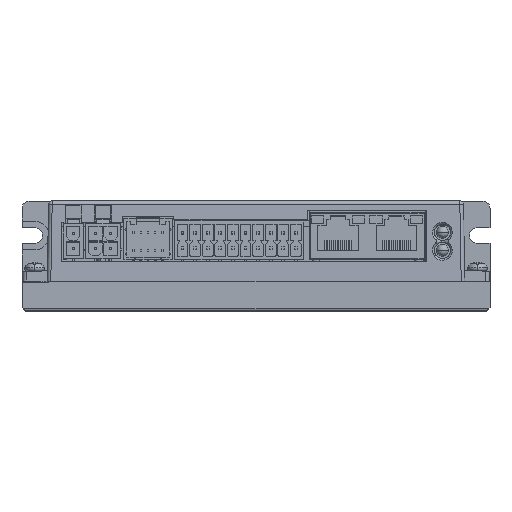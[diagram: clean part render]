
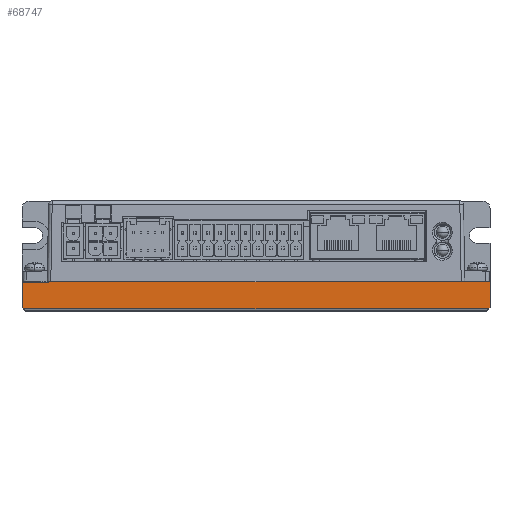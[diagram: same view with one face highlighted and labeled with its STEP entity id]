
A CAD part, top view. The second image highlights one B-rep face of the part: STEP entity #68747.
In plain terms, the highlighted planar face has unit normal (0, 0, 1).
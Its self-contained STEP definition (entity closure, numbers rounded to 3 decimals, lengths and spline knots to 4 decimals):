
#56781=DIRECTION('',(-1.,0.,0.));
#56782=VECTOR('',#56781,0.315);
#56783=CARTESIAN_POINT('',(2.5591,0.0984,
3.2283));
#56784=LINE('',#56783,#56782);
#57676=DIRECTION('',(-1.,0.,0.));
#57677=VECTOR('',#57676,4.4882);
#57678=CARTESIAN_POINT('',(2.2441,0.0984,
3.2283));
#57679=LINE('',#57678,#57677);
#57859=DIRECTION('',(-1.,0.,0.));
#57860=VECTOR('',#57859,0.0197);
#57861=CARTESIAN_POINT('',(-2.2441,0.0984,
3.2283));
#57862=LINE('',#57861,#57860);
#57867=DIRECTION('',(0.,-1.,0.));
#57868=VECTOR('',#57867,0.2756);
#57869=CARTESIAN_POINT('',(2.5591,0.0984,
3.2283));
#57870=LINE('',#57869,#57868);
#57871=DIRECTION('',(-0.707,-0.707,0.));
#57872=VECTOR('',#57871,0.0278);
#57873=CARTESIAN_POINT('',(2.5591,-0.1772,
3.2283));
#57874=LINE('',#57873,#57872);
#57875=DIRECTION('',(1.,0.,0.));
#57876=VECTOR('',#57875,5.0787);
#57877=CARTESIAN_POINT('',(-2.5394,-0.1969,
3.2283));
#57878=LINE('',#57877,#57876);
#57879=DIRECTION('',(-0.707,0.707,0.));
#57880=VECTOR('',#57879,0.0278);
#57881=CARTESIAN_POINT('',(-2.5394,-0.1969,
3.2283));
#57882=LINE('',#57881,#57880);
#57883=DIRECTION('',(0.,1.,0.));
#57884=VECTOR('',#57883,0.2736);
#57885=CARTESIAN_POINT('',(-2.5591,-0.1772,
3.2283));
#57886=LINE('',#57885,#57884);
#57887=DIRECTION('',(1.,0.,0.));
#57888=VECTOR('',#57887,0.2953);
#57889=CARTESIAN_POINT('',(-2.5591,0.0965,
3.2283));
#57890=LINE('',#57889,#57888);
#57891=DIRECTION('',(0.,-1.,0.));
#57892=VECTOR('',#57891,0.002);
#57893=CARTESIAN_POINT('',(-2.2638,0.0984,
3.2283));
#57894=LINE('',#57893,#57892);
#66688=CARTESIAN_POINT('',(2.5591,0.0984,
3.2283));
#66690=VERTEX_POINT('',#66688);
#66802=CARTESIAN_POINT('',(-2.5591,0.0965,
3.2283));
#66804=VERTEX_POINT('',#66802);
#66818=CARTESIAN_POINT('',(-2.2638,0.0965,
3.2283));
#66819=VERTEX_POINT('',#66818);
#66820=CARTESIAN_POINT('',(-2.2638,0.0984,
3.2283));
#66821=VERTEX_POINT('',#66820);
#67067=CARTESIAN_POINT('',(2.5591,-0.1772,
3.2283));
#67069=VERTEX_POINT('',#67067);
#67131=CARTESIAN_POINT('',(-2.5591,-0.1772,
3.2283));
#67133=VERTEX_POINT('',#67131);
#67134=CARTESIAN_POINT('',(-2.5394,-0.1969,
3.2283));
#67135=VERTEX_POINT('',#67134);
#67136=CARTESIAN_POINT('',(2.5394,-0.1969,
3.2283));
#67137=VERTEX_POINT('',#67136);
#67284=CARTESIAN_POINT('',(2.2441,0.0984,
3.2283));
#67285=CARTESIAN_POINT('',(-2.2441,0.0984,
3.2283));
#67286=VERTEX_POINT('',#67284);
#67287=VERTEX_POINT('',#67285);
#68723=CARTESIAN_POINT('',(2.5591,-0.0394,
3.2283));
#68724=DIRECTION('',(0.,0.,1.));
#68725=DIRECTION('',(0.,1.,0.));
#68726=AXIS2_PLACEMENT_3D('',#68723,#68724,#68725);
#68727=PLANE('',#68726);
#68728=ORIENTED_EDGE('',*,*,#68609,.F.);
#68729=ORIENTED_EDGE('',*,*,#67713,.F.);
#68731=ORIENTED_EDGE('',*,*,#68730,.T.);
#68733=ORIENTED_EDGE('',*,*,#68732,.T.);
#68735=ORIENTED_EDGE('',*,*,#68734,.F.);
#68737=ORIENTED_EDGE('',*,*,#68736,.T.);
#68739=ORIENTED_EDGE('',*,*,#68738,.T.);
#68741=ORIENTED_EDGE('',*,*,#68740,.T.);
#68743=ORIENTED_EDGE('',*,*,#68742,.F.);
#68744=ORIENTED_EDGE('',*,*,#68709,.F.);
#68745=EDGE_LOOP('',(#68728,#68729,#68731,#68733,#68735,#68737,#68739,#68741,
#68743,#68744));
#68746=FACE_OUTER_BOUND('',#68745,.F.);
#68747=ADVANCED_FACE('',(#68746),#68727,.T.);
#67713=EDGE_CURVE('',#66690,#67286,#56784,.T.);
#68609=EDGE_CURVE('',#67286,#67287,#57679,.T.);
#68709=EDGE_CURVE('',#67287,#66821,#57862,.T.);
#68730=EDGE_CURVE('',#66690,#67069,#57870,.T.);
#68732=EDGE_CURVE('',#67069,#67137,#57874,.T.);
#68734=EDGE_CURVE('',#67135,#67137,#57878,.T.);
#68736=EDGE_CURVE('',#67135,#67133,#57882,.T.);
#68738=EDGE_CURVE('',#67133,#66804,#57886,.T.);
#68740=EDGE_CURVE('',#66804,#66819,#57890,.T.);
#68742=EDGE_CURVE('',#66821,#66819,#57894,.T.);
